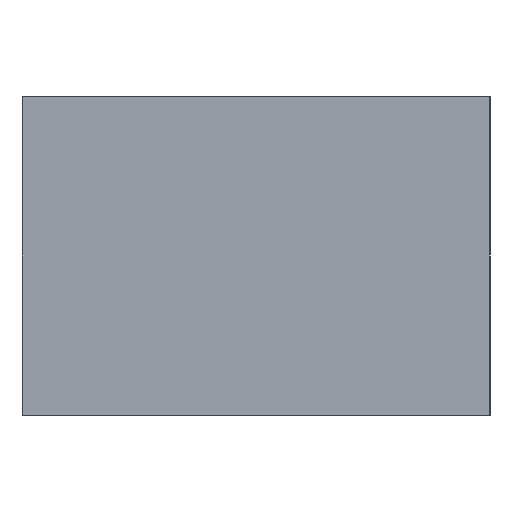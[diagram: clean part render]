
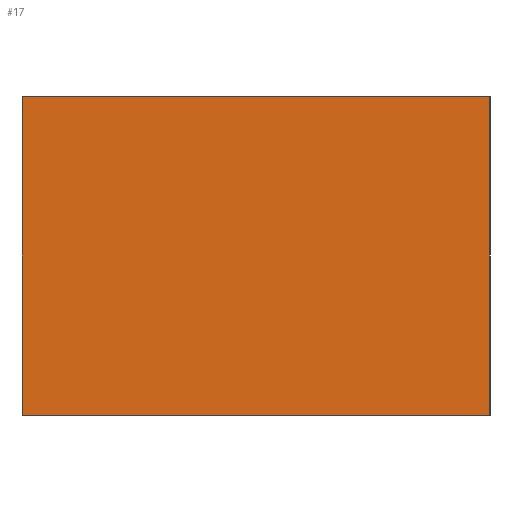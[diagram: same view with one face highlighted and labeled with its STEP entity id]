
A CAD part, left-side view. The second image highlights one B-rep face of the part: STEP entity #17.
In plain terms, the highlighted planar face has unit normal (-1, 0, 0).
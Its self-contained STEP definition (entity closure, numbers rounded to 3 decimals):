
#17 = ADVANCED_FACE('',(#18),#32,.F.);
#18 = FACE_BOUND('',#19,.F.);
#19 = EDGE_LOOP('',(#20,#55,#83,#111));
#20 = ORIENTED_EDGE('',*,*,#21,.F.);
#21 = EDGE_CURVE('',#22,#24,#26,.T.);
#22 = VERTEX_POINT('',#23);
#23 = CARTESIAN_POINT('',(-1.,-0.625,0.));
#24 = VERTEX_POINT('',#25);
#25 = CARTESIAN_POINT('',(-1.,-0.625,0.85));
#26 = SURFACE_CURVE('',#27,(#31,#43),.PCURVE_S1.);
#27 = LINE('',#28,#29);
#28 = CARTESIAN_POINT('',(-1.,-0.625,0.));
#29 = VECTOR('',#30,1.);
#30 = DIRECTION('',(0.,0.,1.));
#31 = PCURVE('',#32,#37);
#32 = PLANE('',#33);
#33 = AXIS2_PLACEMENT_3D('',#34,#35,#36);
#34 = CARTESIAN_POINT('',(-1.,-0.625,0.));
#35 = DIRECTION('',(1.,0.,-0.));
#36 = DIRECTION('',(0.,0.,1.));
#37 = DEFINITIONAL_REPRESENTATION('',(#38),#42);
#38 = LINE('',#39,#40);
#39 = CARTESIAN_POINT('',(0.,0.));
#40 = VECTOR('',#41,1.);
#41 = DIRECTION('',(1.,0.));
#42 = ( GEOMETRIC_REPRESENTATION_CONTEXT(2) 
PARAMETRIC_REPRESENTATION_CONTEXT() REPRESENTATION_CONTEXT('2D SPACE',''
  ) );
#43 = PCURVE('',#44,#49);
#44 = PLANE('',#45);
#45 = AXIS2_PLACEMENT_3D('',#46,#47,#48);
#46 = CARTESIAN_POINT('',(-1.,-0.625,0.));
#47 = DIRECTION('',(-0.,1.,0.));
#48 = DIRECTION('',(0.,0.,1.));
#49 = DEFINITIONAL_REPRESENTATION('',(#50),#54);
#50 = LINE('',#51,#52);
#51 = CARTESIAN_POINT('',(0.,0.));
#52 = VECTOR('',#53,1.);
#53 = DIRECTION('',(1.,0.));
#54 = ( GEOMETRIC_REPRESENTATION_CONTEXT(2) 
PARAMETRIC_REPRESENTATION_CONTEXT() REPRESENTATION_CONTEXT('2D SPACE',''
  ) );
#55 = ORIENTED_EDGE('',*,*,#56,.T.);
#56 = EDGE_CURVE('',#22,#57,#59,.T.);
#57 = VERTEX_POINT('',#58);
#58 = CARTESIAN_POINT('',(-1.,0.625,0.));
#59 = SURFACE_CURVE('',#60,(#64,#71),.PCURVE_S1.);
#60 = LINE('',#61,#62);
#61 = CARTESIAN_POINT('',(-1.,-0.625,0.));
#62 = VECTOR('',#63,1.);
#63 = DIRECTION('',(-0.,1.,0.));
#64 = PCURVE('',#32,#65);
#65 = DEFINITIONAL_REPRESENTATION('',(#66),#70);
#66 = LINE('',#67,#68);
#67 = CARTESIAN_POINT('',(0.,0.));
#68 = VECTOR('',#69,1.);
#69 = DIRECTION('',(0.,-1.));
#70 = ( GEOMETRIC_REPRESENTATION_CONTEXT(2) 
PARAMETRIC_REPRESENTATION_CONTEXT() REPRESENTATION_CONTEXT('2D SPACE',''
  ) );
#71 = PCURVE('',#72,#77);
#72 = PLANE('',#73);
#73 = AXIS2_PLACEMENT_3D('',#74,#75,#76);
#74 = CARTESIAN_POINT('',(-1.,-0.625,0.));
#75 = DIRECTION('',(0.,0.,1.));
#76 = DIRECTION('',(1.,0.,-0.));
#77 = DEFINITIONAL_REPRESENTATION('',(#78),#82);
#78 = LINE('',#79,#80);
#79 = CARTESIAN_POINT('',(0.,0.));
#80 = VECTOR('',#81,1.);
#81 = DIRECTION('',(0.,1.));
#82 = ( GEOMETRIC_REPRESENTATION_CONTEXT(2) 
PARAMETRIC_REPRESENTATION_CONTEXT() REPRESENTATION_CONTEXT('2D SPACE',''
  ) );
#83 = ORIENTED_EDGE('',*,*,#84,.T.);
#84 = EDGE_CURVE('',#57,#85,#87,.T.);
#85 = VERTEX_POINT('',#86);
#86 = CARTESIAN_POINT('',(-1.,0.625,0.85));
#87 = SURFACE_CURVE('',#88,(#92,#99),.PCURVE_S1.);
#88 = LINE('',#89,#90);
#89 = CARTESIAN_POINT('',(-1.,0.625,0.));
#90 = VECTOR('',#91,1.);
#91 = DIRECTION('',(0.,0.,1.));
#92 = PCURVE('',#32,#93);
#93 = DEFINITIONAL_REPRESENTATION('',(#94),#98);
#94 = LINE('',#95,#96);
#95 = CARTESIAN_POINT('',(0.,-1.25));
#96 = VECTOR('',#97,1.);
#97 = DIRECTION('',(1.,0.));
#98 = ( GEOMETRIC_REPRESENTATION_CONTEXT(2) 
PARAMETRIC_REPRESENTATION_CONTEXT() REPRESENTATION_CONTEXT('2D SPACE',''
  ) );
#99 = PCURVE('',#100,#105);
#100 = PLANE('',#101);
#101 = AXIS2_PLACEMENT_3D('',#102,#103,#104);
#102 = CARTESIAN_POINT('',(-1.,0.625,0.));
#103 = DIRECTION('',(-0.,1.,0.));
#104 = DIRECTION('',(0.,0.,1.));
#105 = DEFINITIONAL_REPRESENTATION('',(#106),#110);
#106 = LINE('',#107,#108);
#107 = CARTESIAN_POINT('',(0.,0.));
#108 = VECTOR('',#109,1.);
#109 = DIRECTION('',(1.,0.));
#110 = ( GEOMETRIC_REPRESENTATION_CONTEXT(2) 
PARAMETRIC_REPRESENTATION_CONTEXT() REPRESENTATION_CONTEXT('2D SPACE',''
  ) );
#111 = ORIENTED_EDGE('',*,*,#112,.F.);
#112 = EDGE_CURVE('',#24,#85,#113,.T.);
#113 = SURFACE_CURVE('',#114,(#118,#125),.PCURVE_S1.);
#114 = LINE('',#115,#116);
#115 = CARTESIAN_POINT('',(-1.,-0.625,0.85));
#116 = VECTOR('',#117,1.);
#117 = DIRECTION('',(-0.,1.,0.));
#118 = PCURVE('',#32,#119);
#119 = DEFINITIONAL_REPRESENTATION('',(#120),#124);
#120 = LINE('',#121,#122);
#121 = CARTESIAN_POINT('',(0.85,0.));
#122 = VECTOR('',#123,1.);
#123 = DIRECTION('',(0.,-1.));
#124 = ( GEOMETRIC_REPRESENTATION_CONTEXT(2) 
PARAMETRIC_REPRESENTATION_CONTEXT() REPRESENTATION_CONTEXT('2D SPACE',''
  ) );
#125 = PCURVE('',#126,#131);
#126 = PLANE('',#127);
#127 = AXIS2_PLACEMENT_3D('',#128,#129,#130);
#128 = CARTESIAN_POINT('',(-1.,-0.625,0.85));
#129 = DIRECTION('',(0.,0.,1.));
#130 = DIRECTION('',(1.,0.,-0.));
#131 = DEFINITIONAL_REPRESENTATION('',(#132),#136);
#132 = LINE('',#133,#134);
#133 = CARTESIAN_POINT('',(0.,0.));
#134 = VECTOR('',#135,1.);
#135 = DIRECTION('',(0.,1.));
#136 = ( GEOMETRIC_REPRESENTATION_CONTEXT(2) 
PARAMETRIC_REPRESENTATION_CONTEXT() REPRESENTATION_CONTEXT('2D SPACE',''
  ) );
